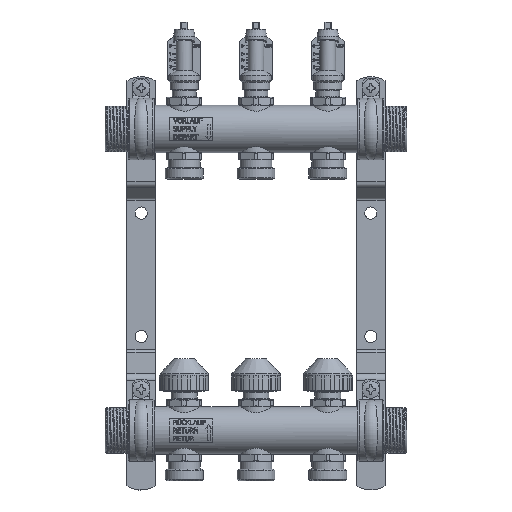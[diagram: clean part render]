
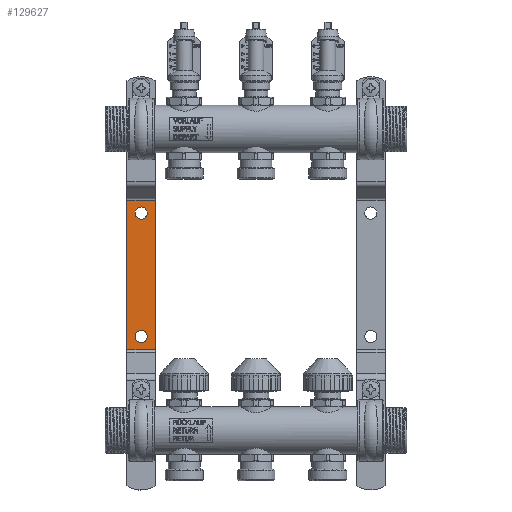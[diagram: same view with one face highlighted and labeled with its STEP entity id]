
A CAD part, top view. The second image highlights one B-rep face of the part: STEP entity #129627.
In plain terms, the highlighted planar face has unit normal (0, 0, 1).
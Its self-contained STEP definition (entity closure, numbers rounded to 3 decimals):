
#129540=CARTESIAN_POINT('',(-15.,-153.73,-35.));
#129541=VERTEX_POINT('',#129540);
#129549=CARTESIAN_POINT('',(-35.,-153.73,-35.));
#129550=VERTEX_POINT('',#129549);
#129551=CARTESIAN_POINT('',(-15.,-153.73,-35.));
#129552=DIRECTION('',(-1.0,0.0,0.0));
#129553=VECTOR('',#129552,20.);
#129554=LINE('',#129551,#129553);
#129555=EDGE_CURVE('',#129541,#129550,#129554,.T.);
#129575=CARTESIAN_POINT('',(-15.,-48.473,-35.));
#129576=DIRECTION('',(0.0,0.0,1.0));
#129577=DIRECTION('',(-1.0,0.0,0.0));
#129578=AXIS2_PLACEMENT_3D('',#129575,#129576,#129577);
#129579=PLANE('',#129578);
#129580=ORIENTED_EDGE('',*,*,#129555,.F.);
#129581=CARTESIAN_POINT('',(-15.,-49.636,-35.));
#129582=VERTEX_POINT('',#129581);
#129583=CARTESIAN_POINT('',(-15.,-49.636,-35.));
#129584=DIRECTION('',(0.0,-1.0,0.0));
#129585=VECTOR('',#129584,104.095);
#129586=LINE('',#129583,#129585);
#129587=EDGE_CURVE('',#129582,#129541,#129586,.T.);
#129588=ORIENTED_EDGE('',*,*,#129587,.F.);
#129589=CARTESIAN_POINT('',(-35.,-49.636,-35.));
#129590=VERTEX_POINT('',#129589);
#129591=CARTESIAN_POINT('',(-35.,-49.636,-35.));
#129592=DIRECTION('',(1.0,0.0,0.0));
#129593=VECTOR('',#129592,20.);
#129594=LINE('',#129591,#129593);
#129595=EDGE_CURVE('',#129590,#129582,#129594,.T.);
#129596=ORIENTED_EDGE('',*,*,#129595,.F.);
#129597=CARTESIAN_POINT('',(-35.,-49.636,-35.));
#129598=DIRECTION('',(0.0,-1.0,0.0));
#129599=VECTOR('',#129598,104.095);
#129600=LINE('',#129597,#129599);
#129601=EDGE_CURVE('',#129590,#129550,#129600,.T.);
#129602=ORIENTED_EDGE('',*,*,#129601,.T.);
#129603=EDGE_LOOP('',(#129580,#129588,#129596,#129602));
#129604=FACE_OUTER_BOUND('',#129603,.T.);
#129605=CARTESIAN_POINT('',(-25.,-140.25,-35.));
#129606=VERTEX_POINT('',#129605);
#129607=CARTESIAN_POINT('',(-25.,-144.5,-35.));
#129608=DIRECTION('',(0.0,0.0,-1.0));
#129609=DIRECTION('',(0.0,-1.0,0.0));
#129610=AXIS2_PLACEMENT_3D('',#129607,#129608,#129609);
#129611=CIRCLE('',#129610,4.25);
#129612=EDGE_CURVE('',#129606,#129606,#129611,.T.);
#129613=ORIENTED_EDGE('',*,*,#129612,.T.);
#129614=EDGE_LOOP('',(#129613));
#129615=FACE_BOUND('',#129614,.T.);
#129616=CARTESIAN_POINT('',(-25.,-54.25,-35.));
#129617=VERTEX_POINT('',#129616);
#129618=CARTESIAN_POINT('',(-25.,-58.5,-35.));
#129619=DIRECTION('',(0.0,0.0,-1.0));
#129620=DIRECTION('',(0.0,-1.0,0.0));
#129621=AXIS2_PLACEMENT_3D('',#129618,#129619,#129620);
#129622=CIRCLE('',#129621,4.25);
#129623=EDGE_CURVE('',#129617,#129617,#129622,.T.);
#129624=ORIENTED_EDGE('',*,*,#129623,.T.);
#129625=EDGE_LOOP('',(#129624));
#129626=FACE_BOUND('',#129625,.T.);
#129627=ADVANCED_FACE('',(#129604,#129615,#129626),#129579,.T.);
